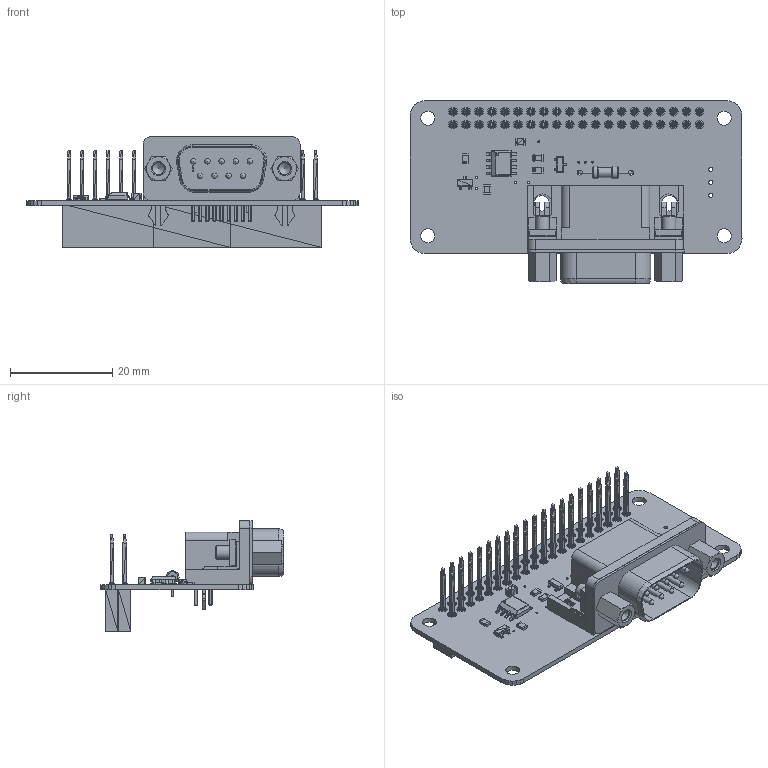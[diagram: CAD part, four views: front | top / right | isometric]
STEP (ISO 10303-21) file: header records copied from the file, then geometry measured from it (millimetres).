
FILE_DESCRIPTION(/* description */ (''),/* implementation_level */ '2;1');
FILE_NAME(/* name */ 'C:/Users/andrew/Desktop/3D Models/rs485-pi-1.0.step',/* time_stamp */ '2018-02-10T15:34:12+00:00',/* author */ ('and101'),/* organization */ (''),/* preprocessor_version */ 'ST-DEVELOPER v16.13',/* originating_system */ 'Autodesk Translation Framework v6.5.0.72',/* authorisation */ '');
FILE_SCHEMA (('AUTOMOTIVE_DESIGN { 1 0 10303 214 3 1 1 }'));
Products named in the file (10): rs485-pi-1.0; Board_rs485-pi-1; DB-9M; res_0805; res-10.16_5.1x2; soic-8_150mil; sot23; cap_0805; sot23 (1); 40_way_header
Assembly tree (12 placements, depth 2):
  rs485-pi-1.0
    Board_rs485-pi-1
    DB-9M
    res_0805  x4
    res-10.16_5.1x2
    soic-8_150mil
    sot23
    cap_0805
    sot23 (1)
    40_way_header
Bounding box: 65 x 35.84 x 21.7 mm (x, y, z)
Volume: 8290.7 mm3; surface area: 13354.7 mm2
Topology: 127 solids, 127 shells, 24440 faces, 37802 edges, 13610 vertices
Faces by surface type: plane 23964, cylinder 311, torus 74, bspline 56, cone 22, sphere 13
Full cylindrical faces by diameter (mm): 0.4 x1, 0.406 x10, 0.5 x4, 0.8 x3, 0.965 x2, 1 x49, 1.04 x9, 2 x1, 2.261 x2, 2.5 x2, 2.72 x2, 2.75 x4, 3 x2, 3.048 x2
Entity records: 490718 total; most frequent: DIRECTION 86765, CARTESIAN_POINT 80606, ORIENTED_EDGE 74950, EDGE_CURVE 37475, LINE 36377, VECTOR 36377, AXIS2_PLACEMENT_3D 25194, EDGE_LOOP 24479
